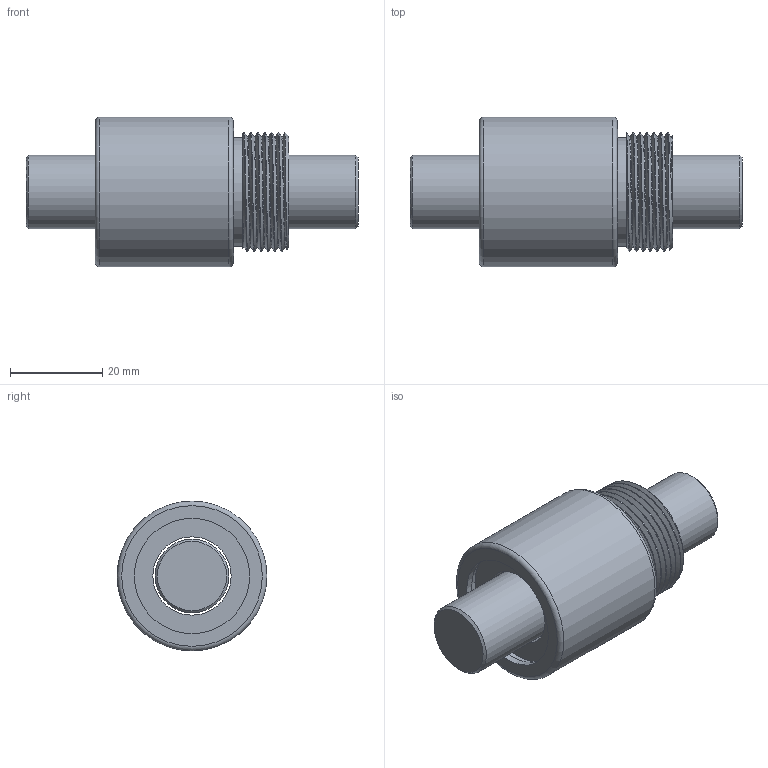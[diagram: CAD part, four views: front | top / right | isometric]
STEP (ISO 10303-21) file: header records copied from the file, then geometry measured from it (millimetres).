
FILE_DESCRIPTION (( 'STEP AP203' ), '1' );
FILE_NAME ('BSH01605-3.STEP', '2023-08-16T07:10:36', ( '' ), ( '' ), 'SwSTEP 2.0', 'SolidWorks 2022', '' );
FILE_SCHEMA (( 'CONFIG_CONTROL_DESIGN' ));
Length unit declared in the file: millimetre
Products named in the file (1): BSH01605-3
Bounding box: 72 x 32.5 x 32.5 mm (x, y, z)
Volume: 34560.2 mm3; surface area: 12133.6 mm2
Topology: 2 solids, 2 shells, 23 faces, 39 edges, 24 vertices
Faces by surface type: plane 8, cylinder 8, cone 3, bspline 2, torus 2
Full cylindrical faces by diameter (mm): 16 x1, 17 x1, 23.6 x1, 25 x1, 26 x1, 32.5 x1
Entity records: 2414 total; most frequent: CARTESIAN_POINT 1938, DIRECTION 86, ORIENTED_EDGE 58, AXIS2_PLACEMENT_3D 43, EDGE_LOOP 39, FACE_OUTER_BOUND 31, EDGE_CURVE 29, VERTEX_POINT 24
